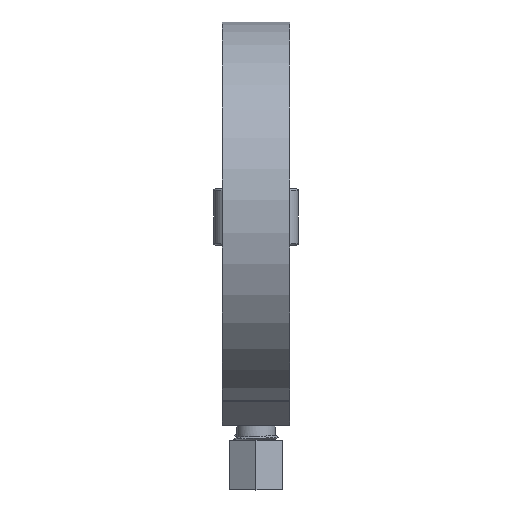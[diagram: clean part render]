
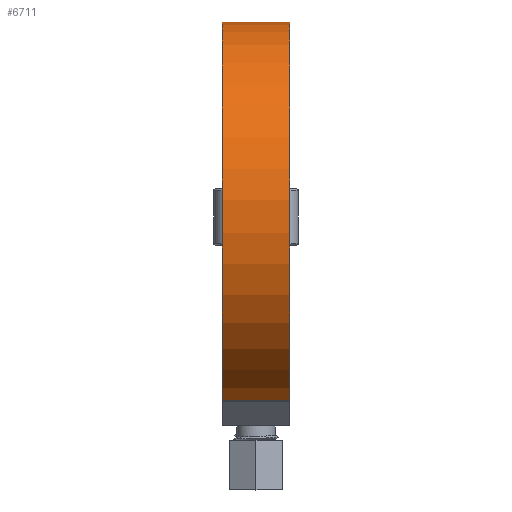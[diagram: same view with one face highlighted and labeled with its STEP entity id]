
A CAD part, top view. The second image highlights one B-rep face of the part: STEP entity #6711.
In plain terms, the highlighted cylindrical face has radius 40.888 mm (diameter 81.776 mm), a partial arc.
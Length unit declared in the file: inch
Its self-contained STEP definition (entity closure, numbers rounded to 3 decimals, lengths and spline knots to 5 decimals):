
#207=CIRCLE('',#7343,1.60976);
#233=CIRCLE('',#7372,1.60976);
#870=FACE_OUTER_BOUND('',#1278,.T.);
#1278=EDGE_LOOP('',(#5238,#5239,#5240,#5241));
#1690=LINE('',#13677,#2103);
#1716=LINE('',#13844,#2129);
#2103=VECTOR('',#8561,0.3937);
#2129=VECTOR('',#8655,0.3937);
#2952=VERTEX_POINT('',#13620);
#2953=VERTEX_POINT('',#13622);
#2974=VERTEX_POINT('',#13675);
#2995=VERTEX_POINT('',#13730);
#3786=EDGE_CURVE('',#2952,#2953,#207,.T.);
#3809=EDGE_CURVE('',#2952,#2974,#1690,.T.);
#3832=EDGE_CURVE('',#2995,#2974,#233,.T.);
#3861=EDGE_CURVE('',#2953,#2995,#1716,.T.);
#5238=ORIENTED_EDGE('',*,*,#3809,.T.);
#5239=ORIENTED_EDGE('',*,*,#3832,.F.);
#5240=ORIENTED_EDGE('',*,*,#3861,.F.);
#5241=ORIENTED_EDGE('',*,*,#3786,.F.);
#6459=CYLINDRICAL_SURFACE('',#7391,1.60976);
#6711=ADVANCED_FACE('',(#870),#6459,.T.);
#7343=AXIS2_PLACEMENT_3D('',#13623,#8523,#8524);
#7372=AXIS2_PLACEMENT_3D('',#13732,#8599,#8600);
#7391=AXIS2_PLACEMENT_3D('',#13843,#8653,#8654);
#8523=DIRECTION('center_axis',(-1.,0.,0.));
#8524=DIRECTION('ref_axis',(0.,0.947,0.322));
#8561=DIRECTION('',(1.,0.,0.));
#8599=DIRECTION('center_axis',(1.,0.,0.));
#8600=DIRECTION('ref_axis',(0.,0.947,0.322));
#8653=DIRECTION('center_axis',(1.,0.,0.));
#8654=DIRECTION('ref_axis',(0.,0.947,0.322));
#8655=DIRECTION('',(1.,0.,0.));
#13620=CARTESIAN_POINT('',(-0.28,-1.60976,0.));
#13622=CARTESIAN_POINT('',(-0.28,1.52375,0.51914));
#13623=CARTESIAN_POINT('Origin',(-0.28,0.,0.));
#13675=CARTESIAN_POINT('',(0.28,-1.60976,0.));
#13677=CARTESIAN_POINT('',(0.,-1.60976,0.));
#13730=CARTESIAN_POINT('',(0.28,1.52375,0.51914));
#13732=CARTESIAN_POINT('Origin',(0.28,0.,0.));
#13843=CARTESIAN_POINT('Origin',(0.,0.,0.));
#13844=CARTESIAN_POINT('',(0.,1.52375,0.51914));
